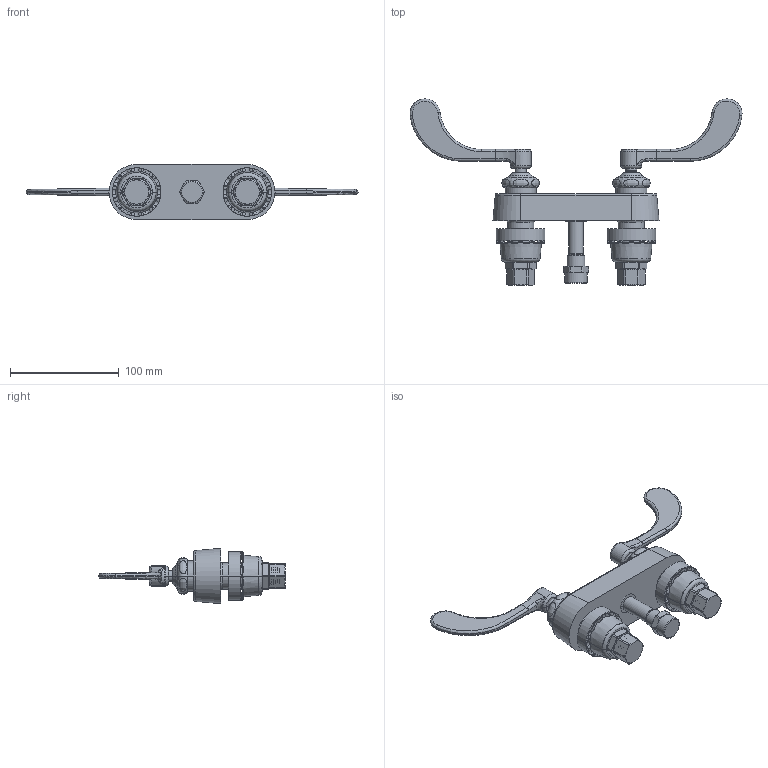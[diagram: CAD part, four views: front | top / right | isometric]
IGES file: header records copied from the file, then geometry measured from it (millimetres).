
Start section:  PTC IGES file: 525-xkcabcp_REV101617.igs
Global section: file name: 525-xkcabcp_REV101617.igs; native system: Creo Parametric by PTC Inc.; preprocessor: 2014500; author: dmisv; organization: Unknown; date: 20171016.085740; units: inch
Bounding box: 304.79 x 170.9 x 50.8 mm (x, y, z)
Surface area: 83262.8 mm2 (no closed solid volume)
Topology: 0 solids, 39 shells, 583 faces, 1692 edges, 1092 vertices
Faces by surface type: revolution 418, bspline 165
